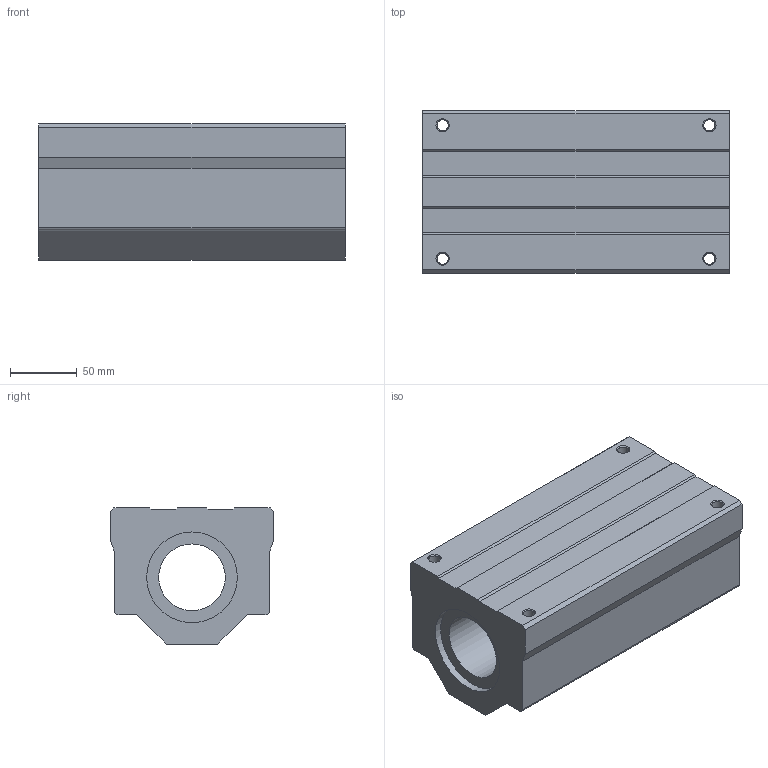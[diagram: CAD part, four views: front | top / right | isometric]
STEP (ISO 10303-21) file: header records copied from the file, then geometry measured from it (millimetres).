
FILE_DESCRIPTION( ( 'Unknown' ), '1' );
FILE_NAME( 'D:/累诀/己绕皋墨飘肺葱胶/11-04-06_档搁累己/01_府聪绢何教/SC W/SC 50W.stp', 'Unknown', ( 'Unknown' ), ( 'Unknown' ), 'PSStep 11.0', 'Unknown', ' ' );
FILE_SCHEMA( ( 'AUTOMOTIVE_DESIGN { 1 0 10303 214 1 1 1 1 }' ) );
Length unit declared in the file: millimetre
Products named in the file (1): 1
Bounding box: 230 x 122 x 102 mm (x, y, z)
Volume: 1981566.5 mm3; surface area: 157512.5 mm2
Topology: 1 solids, 1 shells, 43 faces, 121 edges, 82 vertices
Faces by surface type: plane 26, cylinder 13, cone 4
Full cylindrical faces by diameter (mm): 8.376 x8, 50 x1, 68 x2
Entity records: 1590 total; most frequent: CARTESIAN_POINT 208, DIRECTION 208, ORIENTED_EDGE 188, EDGE_CURVE 94, AXIS2_PLACEMENT_3D 70, EDGE_LOOP 70, VERTEX_POINT 70, LINE 68
